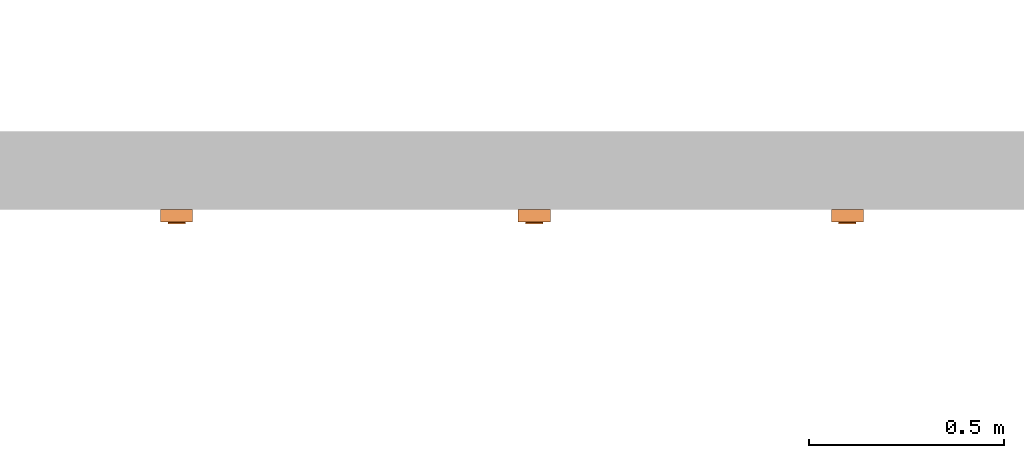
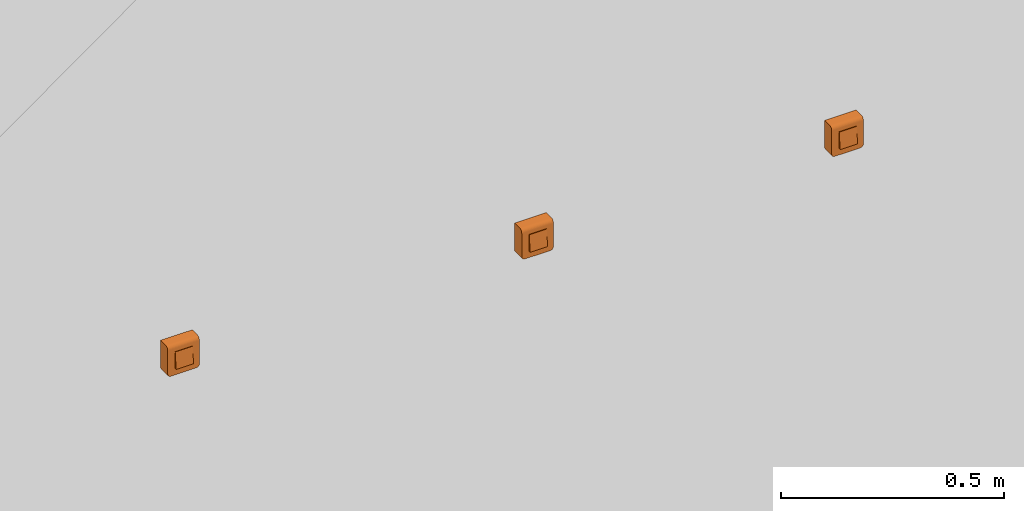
# One storey, part 99 of 197: 3 proxies.
"""IFC2X3 building model written with IfcOpenShell, lengths in metres."""

from ifc_helpers import new_model, entity, si_unit, converted_unit, direction, frame, origin, place, context, subcontext, project, spatial, faceted_brep, source, transform, mapped, material, material_list, type_object, type_shapes, element, save


model = new_model("IFC2X3")

# Units and contexts
model_context = context("Model", 3, precision=1e-05, world=origin(), true_north=direction((6.123031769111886e-17, 1.0)))
body_context = subcontext(model_context, "Body", "Model", "MODEL_VIEW")
ifc_project = project(units=[si_unit("LENGTHUNIT", "METRE"), converted_unit("PLANEANGLEUNIT", "DEGREE", entity("IfcPlaneAngleMeasure", 0.017453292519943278), si_unit("PLANEANGLEUNIT", "RADIAN"), dimensions=[0, 0, 0, 0, 0, 0, 0]), si_unit("AREAUNIT", "SQUARE_METRE")], contexts=[model_context])

# Site, building, storey
site_placement = place(None, origin())
site = spatial("IfcSite", under=ifc_project, at=site_placement, Name="Default", CompositionType="ELEMENT")
building_placement = place(site_placement, origin())
building = spatial("IfcBuilding", under=site, at=building_placement, CompositionType="ELEMENT")
storey_placement = place(building_placement, origin())
storey = spatial("IfcBuildingStorey", under=building, at=storey_placement, Name="Niveau 0", CompositionType="ELEMENT", Elevation=0.0)

# Proxies
ifc_material_1 = material(Name="BETCE-DOIGT-BLANC")
ifc_material_2 = material(Name="<Unnamed>")
ifc_material_3 = material(Name="BETCE-ENJOLIVEUR PC-BLANC")
ifc_material_list = material_list([ifc_material_1, ifc_material_2, ifc_material_3])
building_element_proxy_type_1 = type_object("IfcBuildingElementProxyType", Name="Interrupteur volet roulant saillie:Volet roulant", PredefinedType="NOTDEFINED", material=ifc_material_list)
shared_shape_1 = source(origin(), body_context, "Body", "Brep", [
    faceted_brep([(0.0, -0.033499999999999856, 0.022499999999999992), (0.0, -0.03799999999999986, -0.022500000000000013), (0.022499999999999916, -0.037999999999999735, -0.022500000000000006), (0.022499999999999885, -0.03349999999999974, 0.022499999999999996), (0.0, -0.02299999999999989, -0.022500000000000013), (0.0, -0.02299999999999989, 0.022499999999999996), (0.022499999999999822, -0.02299999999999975, 0.022499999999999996), (0.022499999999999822, -0.02299999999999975, -0.022500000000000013)], [[[0, 1, 2, 3]], [[4, 5, 6, 7]], [[5, 4, 1, 0]], [[6, 5, 0, 3]], [[7, 6, 3, 2]], [[4, 7, 2, 1]]]),
    faceted_brep([(0.04099999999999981, -0.023, 0.04092306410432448), (-0.04100000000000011, -0.023000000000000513, 0.04092306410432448), (-0.04100000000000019, -0.023000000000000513, -0.03299999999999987), (-0.040727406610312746, -0.023000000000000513, -0.03507055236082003), (-0.039928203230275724, -0.023000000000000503, -0.03699999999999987), (-0.038656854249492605, -0.0230000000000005, -0.038656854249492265), (-0.037000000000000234, -0.023000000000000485, -0.03992820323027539), (-0.0350705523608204, -0.023000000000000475, -0.04072740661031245), (-0.03300000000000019, -0.02300000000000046, -0.040999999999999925), (0.032999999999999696, -0.02300000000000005, -0.040999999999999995), (0.03507055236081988, -0.023000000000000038, -0.04072740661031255), (0.03699999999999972, -0.023000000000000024, -0.03992820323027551), (0.0386568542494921, -0.023000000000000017, -0.0386568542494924), (0.03992820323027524, -0.023000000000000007, -0.037000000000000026), (0.040727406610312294, -0.023000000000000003, -0.035070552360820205), (0.04099999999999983, -0.023, -0.032999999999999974), (-0.041000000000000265, 0.0, -0.03299999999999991), (-0.04100000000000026, 0.0, 0.04092306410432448), (0.04099999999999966, 0.0, 0.04092306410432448), (0.04099999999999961, 0.0, -0.03299999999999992), (0.04072740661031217, 0.0, -0.0350705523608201), (0.03992820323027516, 0.0, -0.036999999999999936), (0.038656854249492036, 0.0, -0.038656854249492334), (0.03699999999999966, 0.0, -0.039928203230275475), (0.03507055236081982, 0.0, -0.040727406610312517), (0.032999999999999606, 0.0, -0.04099999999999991), (-0.033000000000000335, 0.0, -0.040999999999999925), (-0.035070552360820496, 0.0, -0.04072740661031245), (-0.03700000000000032, 0.0, -0.039928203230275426), (-0.0386568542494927, 0.0, -0.0386568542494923), (-0.03992820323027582, 0.0, -0.036999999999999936), (-0.04072740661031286, 0.0, -0.035070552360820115)], [[[0, 1, 2, 3, 4, 5, 6, 7, 8, 9, 10, 11, 12, 13, 14, 15]], [[16, 17, 18, 19, 20, 21, 22, 23, 24, 25, 26, 27, 28, 29, 30, 31]], [[2, 1, 17, 16]], [[9, 8, 26, 25]], [[0, 15, 19, 18]], [[1, 0, 18, 17]], [[26, 8, 7, 27]], [[27, 7, 6, 28]], [[28, 6, 5, 29]], [[30, 4, 3, 31]], [[31, 3, 2, 16]], [[29, 5, 4, 30]], [[20, 19, 15, 14]], [[21, 20, 14, 13]], [[22, 21, 13, 12]], [[23, 22, 12, 11]], [[24, 23, 11, 10]], [[25, 24, 10, 9]]]),
    faceted_brep([(-0.022500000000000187, -0.02299999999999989, -0.022500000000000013), (-0.022500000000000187, -0.02299999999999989, 0.022499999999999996), (0.0, -0.02299999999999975, 0.022499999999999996), (0.0, -0.02299999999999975, -0.022500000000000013), (-0.022500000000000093, -0.037999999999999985, -0.022500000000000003), (-0.02250000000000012, -0.03349999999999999, 0.022499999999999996), (0.0, -0.03349999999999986, 0.022499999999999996), (0.0, -0.037999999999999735, -0.022500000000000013)], [[[0, 1, 2, 3]], [[1, 0, 4, 5]], [[2, 1, 5, 6]], [[3, 2, 6, 7]], [[0, 3, 7, 4]], [[5, 4, 7, 6]]]),
    faceted_brep([(0.04099999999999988, -0.03199999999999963, -0.03299999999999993), (0.04099999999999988, -0.03199999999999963, 0.0319999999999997), (0.022499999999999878, -0.031999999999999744, -0.022500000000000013), (0.032999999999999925, -0.03199999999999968, -0.040999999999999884), (0.03507055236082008, -0.031999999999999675, -0.040727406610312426), (0.040727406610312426, -0.03199999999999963, -0.03507055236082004), (0.02249999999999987, -0.031999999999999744, 0.022499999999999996), (-0.022500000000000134, -0.03200000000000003, 0.022499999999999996), (-0.04100000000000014, -0.03200000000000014, 0.0319999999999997), (-0.022500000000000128, -0.03200000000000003, -0.022500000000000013), (-0.04100000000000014, -0.03200000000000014, -0.03299999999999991), (-0.03300000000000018, -0.03200000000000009, -0.04099999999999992), (-0.03507055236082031, -0.032000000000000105, -0.04072740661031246), (-0.040727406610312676, -0.03200000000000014, -0.03507055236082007), (-0.03700000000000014, -0.03200000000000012, -0.03992820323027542), (-0.039928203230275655, -0.03200000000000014, -0.036999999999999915), (-0.038656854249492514, -0.032000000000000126, -0.03865685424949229), (0.036999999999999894, -0.03199999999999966, -0.039928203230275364), (0.03992820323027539, -0.03199999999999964, -0.03699999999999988), (0.038656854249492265, -0.03199999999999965, -0.038656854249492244), (-0.04100000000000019, -0.02300000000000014, -0.03299999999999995), (-0.041000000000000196, -0.02300000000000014, 0.041000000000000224), (-0.02250000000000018, -0.023000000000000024, 0.022499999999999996), (-0.02250000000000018, -0.023000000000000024, -0.022500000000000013), (-0.03300000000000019, -0.023000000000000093, -0.04099999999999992), (-0.04072740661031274, -0.02300000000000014, -0.03507055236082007), (0.02249999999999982, -0.022999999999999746, 0.022499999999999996), (0.040999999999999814, -0.022999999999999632, 0.041000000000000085), (0.04099999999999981, -0.022999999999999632, -0.032999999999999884), (0.022499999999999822, -0.022999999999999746, -0.022500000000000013), (0.03299999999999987, -0.022999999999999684, -0.040999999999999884), (0.040727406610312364, -0.022999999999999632, -0.03507055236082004), (0.035070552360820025, -0.02299999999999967, -0.040727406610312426), (0.039928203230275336, -0.02299999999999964, -0.03699999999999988), (0.03699999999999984, -0.022999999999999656, -0.039928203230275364), (0.03865685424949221, -0.022999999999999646, -0.038656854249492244), (-0.035070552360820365, -0.023000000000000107, -0.04072740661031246), (-0.039928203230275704, -0.023000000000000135, -0.036999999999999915), (-0.03700000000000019, -0.023000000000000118, -0.03992820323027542), (-0.03865685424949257, -0.023000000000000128, -0.03865685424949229), (0.040999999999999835, -0.025329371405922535, 0.04069333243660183), (0.04099999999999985, -0.027499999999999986, 0.039794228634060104), (0.040999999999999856, -0.029363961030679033, 0.038363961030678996), (0.04099999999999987, -0.030794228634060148, 0.03649999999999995), (0.04099999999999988, -0.03169333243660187, 0.03432937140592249), (-0.04100000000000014, -0.03169333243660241, 0.034329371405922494), (-0.04100000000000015, -0.03079422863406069, 0.03649999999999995), (-0.041000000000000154, -0.02936396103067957, 0.03836396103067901), (-0.04100000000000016, -0.027500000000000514, 0.039794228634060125), (-0.041000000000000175, -0.02532937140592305, 0.04069333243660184)], [[[0, 1, 2]], [[3, 0, 2]], [[0, 3, 4]], [[5, 0, 4]], [[2, 1, 6]], [[1, 7, 6]], [[7, 1, 8]], [[9, 7, 8]], [[10, 9, 8]], [[11, 9, 10]], [[11, 10, 12]], [[12, 10, 13]], [[14, 12, 13]], [[15, 14, 13]], [[14, 15, 16]], [[9, 11, 3]], [[2, 9, 3]], [[5, 4, 17]], [[5, 17, 18]], [[19, 18, 17]], [[20, 21, 22]], [[23, 20, 22]], [[24, 20, 23]], [[25, 20, 24]], [[21, 26, 22]], [[26, 21, 27]], [[28, 26, 27]], [[29, 26, 28]], [[30, 29, 28]], [[30, 28, 31]], [[30, 31, 32]], [[31, 33, 32]], [[33, 34, 32]], [[34, 33, 35]], [[29, 30, 24]], [[25, 24, 36]], [[23, 29, 24]], [[37, 25, 36]], [[37, 36, 38]], [[39, 37, 38]], [[1, 0, 28, 27, 40, 41, 42, 43, 44]], [[31, 28, 0, 5]], [[33, 31, 5, 18]], [[35, 33, 18, 19]], [[34, 35, 19, 17]], [[32, 34, 17, 4]], [[30, 32, 4, 3]], [[24, 30, 3, 11]], [[36, 24, 11, 12]], [[38, 36, 12, 14]], [[39, 38, 14, 16]], [[37, 39, 16, 15]], [[25, 37, 15, 13]], [[20, 25, 13, 10]], [[21, 20, 10, 8, 45, 46, 47, 48, 49]], [[44, 43, 46, 45]], [[1, 44, 45, 8]], [[43, 42, 47, 46]], [[49, 48, 41, 40]], [[21, 49, 40, 27]], [[42, 41, 48, 47]], [[23, 22, 7, 9]], [[29, 23, 9, 2]], [[26, 29, 2, 6]], [[22, 26, 6, 7]]]),
])
type_shapes(building_element_proxy_type_1, [shared_shape_1])
proxy_1_placement = place(storey_placement, frame((-415.6354485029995, 89.39154659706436, 1.1)))
element("IfcBuildingElementProxy", 1, at=proxy_1_placement, inside=storey, type_object=building_element_proxy_type_1, material=ifc_material_list, Name="Interrupteur volet roulant saillie:Volet roulant", ObjectType="Interrupteur volet roulant saillie:Volet roulant", context=body_context, shape_type="MappedRepresentation", body=[
    mapped(shared_shape_1, transform((0.0, 0.0, 0.0), scale=1.0)),
])
building_element_proxy_type_2 = type_object("IfcBuildingElementProxyType", Name="Interrupteur volet roulant saillie:ORANGE", PredefinedType="NOTDEFINED", material=ifc_material_list)
shared_shape_2 = source(origin(), body_context, "Body", "Brep", [
    faceted_brep([(0.0, -0.033499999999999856, 0.022499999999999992), (0.0, -0.03799999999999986, -0.022500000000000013), (0.022499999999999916, -0.037999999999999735, -0.022500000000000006), (0.022499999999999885, -0.03349999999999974, 0.022499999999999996), (0.0, -0.02299999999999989, -0.022500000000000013), (0.0, -0.02299999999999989, 0.022499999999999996), (0.022499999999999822, -0.02299999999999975, 0.022499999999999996), (0.022499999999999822, -0.02299999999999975, -0.022500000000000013)], [[[0, 1, 2, 3]], [[4, 5, 6, 7]], [[5, 4, 1, 0]], [[6, 5, 0, 3]], [[7, 6, 3, 2]], [[4, 7, 2, 1]]]),
    faceted_brep([(0.04099999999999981, -0.023, 0.04092306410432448), (-0.04100000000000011, -0.023000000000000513, 0.04092306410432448), (-0.04100000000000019, -0.023000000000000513, -0.03299999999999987), (-0.040727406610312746, -0.023000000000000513, -0.03507055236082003), (-0.039928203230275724, -0.023000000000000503, -0.03699999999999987), (-0.038656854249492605, -0.0230000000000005, -0.038656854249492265), (-0.037000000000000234, -0.023000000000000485, -0.03992820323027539), (-0.0350705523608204, -0.023000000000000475, -0.04072740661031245), (-0.03300000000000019, -0.02300000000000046, -0.040999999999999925), (0.032999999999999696, -0.02300000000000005, -0.040999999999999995), (0.03507055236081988, -0.023000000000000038, -0.04072740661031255), (0.03699999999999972, -0.023000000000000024, -0.03992820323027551), (0.0386568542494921, -0.023000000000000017, -0.0386568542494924), (0.03992820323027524, -0.023000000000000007, -0.037000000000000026), (0.040727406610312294, -0.023000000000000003, -0.035070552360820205), (0.04099999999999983, -0.023, -0.032999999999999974), (-0.041000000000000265, 0.0, -0.03299999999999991), (-0.04100000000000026, 0.0, 0.04092306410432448), (0.04099999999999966, 0.0, 0.04092306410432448), (0.04099999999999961, 0.0, -0.03299999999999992), (0.04072740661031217, 0.0, -0.0350705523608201), (0.03992820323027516, 0.0, -0.036999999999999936), (0.038656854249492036, 0.0, -0.038656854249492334), (0.03699999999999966, 0.0, -0.039928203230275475), (0.03507055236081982, 0.0, -0.040727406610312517), (0.032999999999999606, 0.0, -0.04099999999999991), (-0.033000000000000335, 0.0, -0.040999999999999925), (-0.035070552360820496, 0.0, -0.04072740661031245), (-0.03700000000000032, 0.0, -0.039928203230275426), (-0.0386568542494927, 0.0, -0.0386568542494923), (-0.03992820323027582, 0.0, -0.036999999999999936), (-0.04072740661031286, 0.0, -0.035070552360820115)], [[[0, 1, 2, 3, 4, 5, 6, 7, 8, 9, 10, 11, 12, 13, 14, 15]], [[16, 17, 18, 19, 20, 21, 22, 23, 24, 25, 26, 27, 28, 29, 30, 31]], [[2, 1, 17, 16]], [[9, 8, 26, 25]], [[0, 15, 19, 18]], [[1, 0, 18, 17]], [[26, 8, 7, 27]], [[27, 7, 6, 28]], [[28, 6, 5, 29]], [[30, 4, 3, 31]], [[31, 3, 2, 16]], [[29, 5, 4, 30]], [[20, 19, 15, 14]], [[21, 20, 14, 13]], [[22, 21, 13, 12]], [[23, 22, 12, 11]], [[24, 23, 11, 10]], [[25, 24, 10, 9]]]),
    faceted_brep([(-0.022500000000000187, -0.02299999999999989, -0.022500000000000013), (-0.022500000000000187, -0.02299999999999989, 0.022499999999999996), (0.0, -0.02299999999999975, 0.022499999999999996), (0.0, -0.02299999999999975, -0.022500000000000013), (-0.022500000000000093, -0.037999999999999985, -0.022500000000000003), (-0.02250000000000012, -0.03349999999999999, 0.022499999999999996), (0.0, -0.03349999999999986, 0.022499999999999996), (0.0, -0.037999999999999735, -0.022500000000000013)], [[[0, 1, 2, 3]], [[1, 0, 4, 5]], [[2, 1, 5, 6]], [[3, 2, 6, 7]], [[0, 3, 7, 4]], [[5, 4, 7, 6]]]),
    faceted_brep([(0.04099999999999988, -0.03199999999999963, -0.03299999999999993), (0.04099999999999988, -0.03199999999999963, 0.0319999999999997), (0.022499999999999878, -0.031999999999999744, -0.022500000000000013), (0.032999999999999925, -0.03199999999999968, -0.040999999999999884), (0.03507055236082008, -0.031999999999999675, -0.040727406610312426), (0.040727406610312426, -0.03199999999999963, -0.03507055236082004), (0.02249999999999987, -0.031999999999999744, 0.022499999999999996), (-0.022500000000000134, -0.03200000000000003, 0.022499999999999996), (-0.04100000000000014, -0.03200000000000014, 0.0319999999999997), (-0.022500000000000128, -0.03200000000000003, -0.022500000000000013), (-0.04100000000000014, -0.03200000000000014, -0.03299999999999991), (-0.03300000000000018, -0.03200000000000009, -0.04099999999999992), (-0.03507055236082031, -0.032000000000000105, -0.04072740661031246), (-0.040727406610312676, -0.03200000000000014, -0.03507055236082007), (-0.03700000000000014, -0.03200000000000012, -0.03992820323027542), (-0.039928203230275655, -0.03200000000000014, -0.036999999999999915), (-0.038656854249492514, -0.032000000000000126, -0.03865685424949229), (0.036999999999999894, -0.03199999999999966, -0.039928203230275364), (0.03992820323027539, -0.03199999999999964, -0.03699999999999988), (0.038656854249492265, -0.03199999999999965, -0.038656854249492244), (-0.04100000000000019, -0.02300000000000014, -0.03299999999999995), (-0.041000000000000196, -0.02300000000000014, 0.041000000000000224), (-0.02250000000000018, -0.023000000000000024, 0.022499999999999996), (-0.02250000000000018, -0.023000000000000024, -0.022500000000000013), (-0.03300000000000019, -0.023000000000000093, -0.04099999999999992), (-0.04072740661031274, -0.02300000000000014, -0.03507055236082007), (0.02249999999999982, -0.022999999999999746, 0.022499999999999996), (0.040999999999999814, -0.022999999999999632, 0.041000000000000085), (0.04099999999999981, -0.022999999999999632, -0.032999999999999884), (0.022499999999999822, -0.022999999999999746, -0.022500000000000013), (0.03299999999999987, -0.022999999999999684, -0.040999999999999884), (0.040727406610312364, -0.022999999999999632, -0.03507055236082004), (0.035070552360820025, -0.02299999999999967, -0.040727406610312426), (0.039928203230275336, -0.02299999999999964, -0.03699999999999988), (0.03699999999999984, -0.022999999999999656, -0.039928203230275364), (0.03865685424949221, -0.022999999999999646, -0.038656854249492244), (-0.035070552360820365, -0.023000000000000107, -0.04072740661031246), (-0.039928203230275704, -0.023000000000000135, -0.036999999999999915), (-0.03700000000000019, -0.023000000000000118, -0.03992820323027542), (-0.03865685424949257, -0.023000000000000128, -0.03865685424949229), (0.040999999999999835, -0.025329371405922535, 0.04069333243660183), (0.04099999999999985, -0.027499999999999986, 0.039794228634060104), (0.040999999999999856, -0.029363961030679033, 0.038363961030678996), (0.04099999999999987, -0.030794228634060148, 0.03649999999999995), (0.04099999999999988, -0.03169333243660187, 0.03432937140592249), (-0.04100000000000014, -0.03169333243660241, 0.034329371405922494), (-0.04100000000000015, -0.03079422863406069, 0.03649999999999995), (-0.041000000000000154, -0.02936396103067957, 0.03836396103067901), (-0.04100000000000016, -0.027500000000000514, 0.039794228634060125), (-0.041000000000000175, -0.02532937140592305, 0.04069333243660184)], [[[0, 1, 2]], [[3, 0, 2]], [[0, 3, 4]], [[5, 0, 4]], [[2, 1, 6]], [[1, 7, 6]], [[7, 1, 8]], [[9, 7, 8]], [[10, 9, 8]], [[11, 9, 10]], [[11, 10, 12]], [[12, 10, 13]], [[14, 12, 13]], [[15, 14, 13]], [[14, 15, 16]], [[9, 11, 3]], [[2, 9, 3]], [[5, 4, 17]], [[5, 17, 18]], [[19, 18, 17]], [[20, 21, 22]], [[23, 20, 22]], [[24, 20, 23]], [[25, 20, 24]], [[21, 26, 22]], [[26, 21, 27]], [[28, 26, 27]], [[29, 26, 28]], [[30, 29, 28]], [[30, 28, 31]], [[30, 31, 32]], [[31, 33, 32]], [[33, 34, 32]], [[34, 33, 35]], [[29, 30, 24]], [[25, 24, 36]], [[23, 29, 24]], [[37, 25, 36]], [[37, 36, 38]], [[39, 37, 38]], [[1, 0, 28, 27, 40, 41, 42, 43, 44]], [[31, 28, 0, 5]], [[33, 31, 5, 18]], [[35, 33, 18, 19]], [[34, 35, 19, 17]], [[32, 34, 17, 4]], [[30, 32, 4, 3]], [[24, 30, 3, 11]], [[36, 24, 11, 12]], [[38, 36, 12, 14]], [[39, 38, 14, 16]], [[37, 39, 16, 15]], [[25, 37, 15, 13]], [[20, 25, 13, 10]], [[21, 20, 10, 8, 45, 46, 47, 48, 49]], [[44, 43, 46, 45]], [[1, 44, 45, 8]], [[43, 42, 47, 46]], [[49, 48, 41, 40]], [[21, 49, 40, 27]], [[42, 41, 48, 47]], [[23, 22, 7, 9]], [[29, 23, 9, 2]], [[26, 29, 2, 6]], [[22, 26, 6, 7]]]),
])
type_shapes(building_element_proxy_type_2, [shared_shape_2])
proxy_2_placement = place(storey_placement, frame((-414.7194485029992, 89.39154659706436, 1.1)))
element("IfcBuildingElementProxy", 2, at=proxy_2_placement, inside=storey, type_object=building_element_proxy_type_2, material=ifc_material_list, Name="Interrupteur volet roulant saillie:ORANGE", ObjectType="Interrupteur volet roulant saillie:ORANGE", context=body_context, shape_type="MappedRepresentation", body=[
    mapped(shared_shape_2, transform((0.0, 0.0, 0.0), scale=1.0)),
])
building_element_proxy_type_3 = type_object("IfcBuildingElementProxyType", Name="Interrupteur volet roulant saillie:VERT", PredefinedType="NOTDEFINED", material=ifc_material_list)
shared_shape_3 = source(origin(), body_context, "Body", "Brep", [
    faceted_brep([(0.0, -0.033499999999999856, 0.022499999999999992), (0.0, -0.03799999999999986, -0.022500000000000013), (0.022499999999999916, -0.037999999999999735, -0.022500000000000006), (0.022499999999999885, -0.03349999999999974, 0.022499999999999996), (0.0, -0.02299999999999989, -0.022500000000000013), (0.0, -0.02299999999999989, 0.022499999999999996), (0.022499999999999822, -0.02299999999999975, 0.022499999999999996), (0.022499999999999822, -0.02299999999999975, -0.022500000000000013)], [[[0, 1, 2, 3]], [[4, 5, 6, 7]], [[5, 4, 1, 0]], [[6, 5, 0, 3]], [[7, 6, 3, 2]], [[4, 7, 2, 1]]]),
    faceted_brep([(0.04099999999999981, -0.023, 0.04092306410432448), (-0.04100000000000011, -0.023000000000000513, 0.04092306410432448), (-0.04100000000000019, -0.023000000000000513, -0.03299999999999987), (-0.040727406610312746, -0.023000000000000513, -0.03507055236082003), (-0.039928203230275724, -0.023000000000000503, -0.03699999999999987), (-0.038656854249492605, -0.0230000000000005, -0.038656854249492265), (-0.037000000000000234, -0.023000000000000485, -0.03992820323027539), (-0.0350705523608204, -0.023000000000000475, -0.04072740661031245), (-0.03300000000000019, -0.02300000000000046, -0.040999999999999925), (0.032999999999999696, -0.02300000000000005, -0.040999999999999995), (0.03507055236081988, -0.023000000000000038, -0.04072740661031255), (0.03699999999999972, -0.023000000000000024, -0.03992820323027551), (0.0386568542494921, -0.023000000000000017, -0.0386568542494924), (0.03992820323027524, -0.023000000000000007, -0.037000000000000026), (0.040727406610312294, -0.023000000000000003, -0.035070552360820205), (0.04099999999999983, -0.023, -0.032999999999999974), (-0.041000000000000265, 0.0, -0.03299999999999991), (-0.04100000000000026, 0.0, 0.04092306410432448), (0.04099999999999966, 0.0, 0.04092306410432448), (0.04099999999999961, 0.0, -0.03299999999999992), (0.04072740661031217, 0.0, -0.0350705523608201), (0.03992820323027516, 0.0, -0.036999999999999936), (0.038656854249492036, 0.0, -0.038656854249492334), (0.03699999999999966, 0.0, -0.039928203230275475), (0.03507055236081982, 0.0, -0.040727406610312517), (0.032999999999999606, 0.0, -0.04099999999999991), (-0.033000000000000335, 0.0, -0.040999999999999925), (-0.035070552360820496, 0.0, -0.04072740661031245), (-0.03700000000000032, 0.0, -0.039928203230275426), (-0.0386568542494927, 0.0, -0.0386568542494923), (-0.03992820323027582, 0.0, -0.036999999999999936), (-0.04072740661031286, 0.0, -0.035070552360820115)], [[[0, 1, 2, 3, 4, 5, 6, 7, 8, 9, 10, 11, 12, 13, 14, 15]], [[16, 17, 18, 19, 20, 21, 22, 23, 24, 25, 26, 27, 28, 29, 30, 31]], [[2, 1, 17, 16]], [[9, 8, 26, 25]], [[0, 15, 19, 18]], [[1, 0, 18, 17]], [[26, 8, 7, 27]], [[27, 7, 6, 28]], [[28, 6, 5, 29]], [[30, 4, 3, 31]], [[31, 3, 2, 16]], [[29, 5, 4, 30]], [[20, 19, 15, 14]], [[21, 20, 14, 13]], [[22, 21, 13, 12]], [[23, 22, 12, 11]], [[24, 23, 11, 10]], [[25, 24, 10, 9]]]),
    faceted_brep([(-0.022500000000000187, -0.02299999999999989, -0.022500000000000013), (-0.022500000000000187, -0.02299999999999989, 0.022499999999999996), (0.0, -0.02299999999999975, 0.022499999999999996), (0.0, -0.02299999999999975, -0.022500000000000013), (-0.022500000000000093, -0.037999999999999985, -0.022500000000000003), (-0.02250000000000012, -0.03349999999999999, 0.022499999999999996), (0.0, -0.03349999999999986, 0.022499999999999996), (0.0, -0.037999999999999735, -0.022500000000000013)], [[[0, 1, 2, 3]], [[1, 0, 4, 5]], [[2, 1, 5, 6]], [[3, 2, 6, 7]], [[0, 3, 7, 4]], [[5, 4, 7, 6]]]),
    faceted_brep([(0.04099999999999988, -0.03199999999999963, -0.03299999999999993), (0.04099999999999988, -0.03199999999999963, 0.0319999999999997), (0.022499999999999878, -0.031999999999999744, -0.022500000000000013), (0.032999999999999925, -0.03199999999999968, -0.040999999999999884), (0.03507055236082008, -0.031999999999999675, -0.040727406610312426), (0.040727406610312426, -0.03199999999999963, -0.03507055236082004), (0.02249999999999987, -0.031999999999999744, 0.022499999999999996), (-0.022500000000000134, -0.03200000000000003, 0.022499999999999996), (-0.04100000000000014, -0.03200000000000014, 0.0319999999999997), (-0.022500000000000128, -0.03200000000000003, -0.022500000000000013), (-0.04100000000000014, -0.03200000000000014, -0.03299999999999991), (-0.03300000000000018, -0.03200000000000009, -0.04099999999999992), (-0.03507055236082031, -0.032000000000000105, -0.04072740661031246), (-0.040727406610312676, -0.03200000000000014, -0.03507055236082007), (-0.03700000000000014, -0.03200000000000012, -0.03992820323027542), (-0.039928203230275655, -0.03200000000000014, -0.036999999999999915), (-0.038656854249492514, -0.032000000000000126, -0.03865685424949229), (0.036999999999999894, -0.03199999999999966, -0.039928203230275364), (0.03992820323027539, -0.03199999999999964, -0.03699999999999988), (0.038656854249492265, -0.03199999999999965, -0.038656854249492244), (-0.04100000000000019, -0.02300000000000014, -0.03299999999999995), (-0.041000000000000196, -0.02300000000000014, 0.041000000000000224), (-0.02250000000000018, -0.023000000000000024, 0.022499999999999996), (-0.02250000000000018, -0.023000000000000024, -0.022500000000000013), (-0.03300000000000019, -0.023000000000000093, -0.04099999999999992), (-0.04072740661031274, -0.02300000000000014, -0.03507055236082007), (0.02249999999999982, -0.022999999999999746, 0.022499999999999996), (0.040999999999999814, -0.022999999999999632, 0.041000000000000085), (0.04099999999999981, -0.022999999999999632, -0.032999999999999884), (0.022499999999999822, -0.022999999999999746, -0.022500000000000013), (0.03299999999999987, -0.022999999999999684, -0.040999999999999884), (0.040727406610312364, -0.022999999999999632, -0.03507055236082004), (0.035070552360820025, -0.02299999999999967, -0.040727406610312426), (0.039928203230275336, -0.02299999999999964, -0.03699999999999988), (0.03699999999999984, -0.022999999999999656, -0.039928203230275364), (0.03865685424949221, -0.022999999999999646, -0.038656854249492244), (-0.035070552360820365, -0.023000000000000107, -0.04072740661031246), (-0.039928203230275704, -0.023000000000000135, -0.036999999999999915), (-0.03700000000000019, -0.023000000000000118, -0.03992820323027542), (-0.03865685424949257, -0.023000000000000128, -0.03865685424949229), (0.040999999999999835, -0.025329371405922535, 0.04069333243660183), (0.04099999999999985, -0.027499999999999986, 0.039794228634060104), (0.040999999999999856, -0.029363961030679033, 0.038363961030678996), (0.04099999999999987, -0.030794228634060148, 0.03649999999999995), (0.04099999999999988, -0.03169333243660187, 0.03432937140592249), (-0.04100000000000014, -0.03169333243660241, 0.034329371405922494), (-0.04100000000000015, -0.03079422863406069, 0.03649999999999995), (-0.041000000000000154, -0.02936396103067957, 0.03836396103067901), (-0.04100000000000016, -0.027500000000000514, 0.039794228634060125), (-0.041000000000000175, -0.02532937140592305, 0.04069333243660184)], [[[0, 1, 2]], [[3, 0, 2]], [[0, 3, 4]], [[5, 0, 4]], [[2, 1, 6]], [[1, 7, 6]], [[7, 1, 8]], [[9, 7, 8]], [[10, 9, 8]], [[11, 9, 10]], [[11, 10, 12]], [[12, 10, 13]], [[14, 12, 13]], [[15, 14, 13]], [[14, 15, 16]], [[9, 11, 3]], [[2, 9, 3]], [[5, 4, 17]], [[5, 17, 18]], [[19, 18, 17]], [[20, 21, 22]], [[23, 20, 22]], [[24, 20, 23]], [[25, 20, 24]], [[21, 26, 22]], [[26, 21, 27]], [[28, 26, 27]], [[29, 26, 28]], [[30, 29, 28]], [[30, 28, 31]], [[30, 31, 32]], [[31, 33, 32]], [[33, 34, 32]], [[34, 33, 35]], [[29, 30, 24]], [[25, 24, 36]], [[23, 29, 24]], [[37, 25, 36]], [[37, 36, 38]], [[39, 37, 38]], [[1, 0, 28, 27, 40, 41, 42, 43, 44]], [[31, 28, 0, 5]], [[33, 31, 5, 18]], [[35, 33, 18, 19]], [[34, 35, 19, 17]], [[32, 34, 17, 4]], [[30, 32, 4, 3]], [[24, 30, 3, 11]], [[36, 24, 11, 12]], [[38, 36, 12, 14]], [[39, 38, 14, 16]], [[37, 39, 16, 15]], [[25, 37, 15, 13]], [[20, 25, 13, 10]], [[21, 20, 10, 8, 45, 46, 47, 48, 49]], [[44, 43, 46, 45]], [[1, 44, 45, 8]], [[43, 42, 47, 46]], [[49, 48, 41, 40]], [[21, 49, 40, 27]], [[42, 41, 48, 47]], [[23, 22, 7, 9]], [[29, 23, 9, 2]], [[26, 29, 2, 6]], [[22, 26, 6, 7]]]),
])
type_shapes(building_element_proxy_type_3, [shared_shape_3])
proxy_3_placement = place(storey_placement, frame((-413.917448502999, 89.39154659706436, 1.1)))
element("IfcBuildingElementProxy", 3, at=proxy_3_placement, inside=storey, type_object=building_element_proxy_type_3, material=ifc_material_list, Name="Interrupteur volet roulant saillie:VERT", ObjectType="Interrupteur volet roulant saillie:VERT", context=body_context, shape_type="MappedRepresentation", body=[
    mapped(shared_shape_3, transform((0.0, 0.0, 0.0), scale=1.0)),
])

save(model, "model.ifc")
